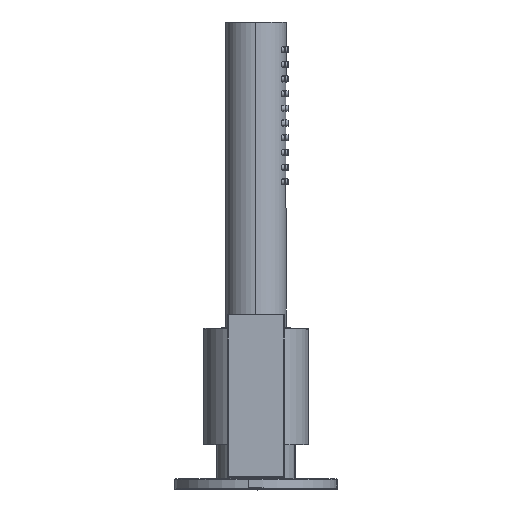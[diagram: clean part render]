
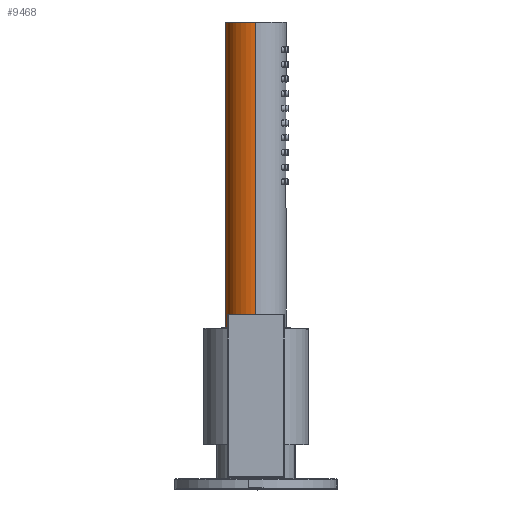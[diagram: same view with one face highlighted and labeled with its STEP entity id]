
A CAD part, top view. The second image highlights one B-rep face of the part: STEP entity #9468.
In plain terms, the highlighted cylindrical face has radius 11.5 mm (diameter 23 mm), a partial arc.
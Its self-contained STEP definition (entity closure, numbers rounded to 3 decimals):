
#98=DIRECTION('',(0.,-1.,0.));
#99=VECTOR('',#98,175.136);
#100=CARTESIAN_POINT('',(7.899,-47.112,-452.764));
#101=LINE('',#100,#99);
#222=CARTESIAN_POINT('',(7.899,-222.247,-464.264));
#223=DIRECTION('',(0.,-1.,0.));
#224=DIRECTION('',(0.,0.,1.));
#225=AXIS2_PLACEMENT_3D('',#222,#223,#224);
#227=DIRECTION('',(0.,-1.,0.));
#228=VECTOR('',#227,175.136);
#229=CARTESIAN_POINT('',(7.899,-47.112,-475.764));
#230=LINE('',#229,#228);
#231=CARTESIAN_POINT('',(7.899,-47.112,-464.264));
#232=DIRECTION('',(0.,1.,0.));
#233=DIRECTION('',(0.,0.,-1.));
#234=AXIS2_PLACEMENT_3D('',#231,#232,#233);
#8770=CARTESIAN_POINT('',(7.899,-47.112,
-475.764));
#8771=CARTESIAN_POINT('',(7.899,-47.112,
-452.764));
#8772=VERTEX_POINT('',#8770);
#8773=VERTEX_POINT('',#8771);
#9014=CARTESIAN_POINT('',(7.899,-222.247,
-475.764));
#9015=CARTESIAN_POINT('',(7.899,-222.247,
-452.764));
#9016=VERTEX_POINT('',#9014);
#9017=VERTEX_POINT('',#9015);
#9456=CARTESIAN_POINT('',(7.899,-229.212,
-464.264));
#9457=DIRECTION('',(0.,-1.,0.));
#9458=DIRECTION('',(0.,0.,-1.));
#9459=AXIS2_PLACEMENT_3D('',#9456,#9457,#9458);
#9460=CYLINDRICAL_SURFACE('',#9459,11.5);
#9461=ORIENTED_EDGE('',*,*,#9385,.T.);
#9462=ORIENTED_EDGE('',*,*,#9129,.F.);
#9464=ORIENTED_EDGE('',*,*,#9463,.T.);
#9465=ORIENTED_EDGE('',*,*,#9125,.T.);
#9466=EDGE_LOOP('',(#9461,#9462,#9464,#9465));
#9467=FACE_OUTER_BOUND('',#9466,.F.);
#226=CIRCLE('',#225,11.5);
#235=CIRCLE('',#234,11.5);
#9125=EDGE_CURVE('',#8773,#9017,#101,.T.);
#9129=EDGE_CURVE('',#8772,#9016,#230,.T.);
#9385=EDGE_CURVE('',#9017,#9016,#226,.T.);
#9463=EDGE_CURVE('',#8772,#8773,#235,.T.);
#9468=ADVANCED_FACE('',(#9467),#9460,.T.);
